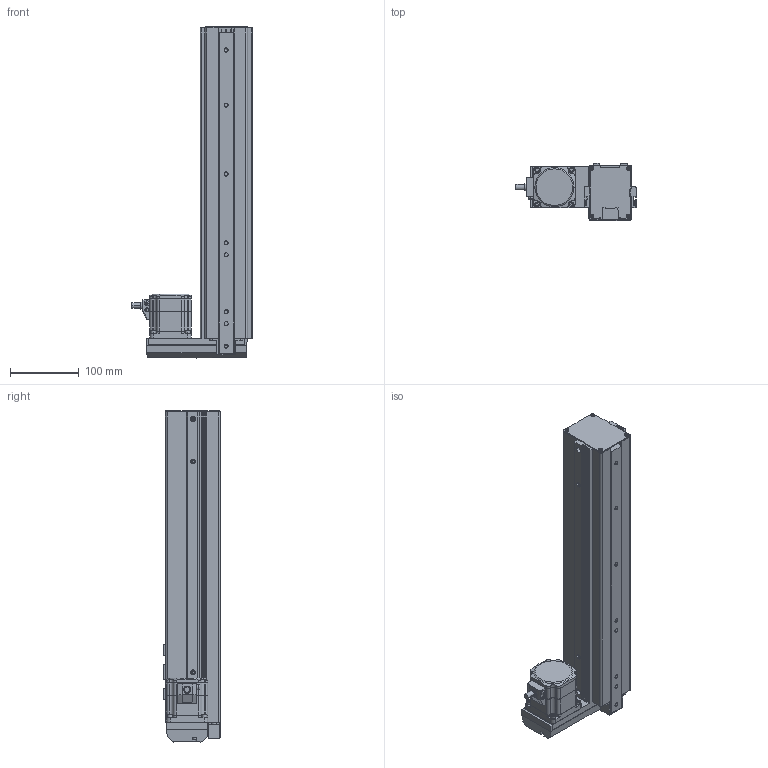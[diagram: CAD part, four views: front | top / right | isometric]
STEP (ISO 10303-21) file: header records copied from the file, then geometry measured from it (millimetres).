
FILE_DESCRIPTION (( 'STEP AP203' ), '1' );
FILE_NAME ('EASM6RYD030ARAK.step', '2013-10-10T19:30:02', ( 'om' ), ( 'Hewlett-Packard Company' ), 'SwSTEP 2.0', 'SolidWorks 2011', '' );
FILE_SCHEMA (( 'CONFIG_CONTROL_DESIGN' ));
Length unit declared in the file: millimetre
Products named in the file (4): EASM6RYD030ARAK_Motor; EASM6RYD030ARAK; EASM6RYD030ARAK_Table; EASM6RYD030ARAK_BASE
Assembly tree (3 placements, depth 2):
  EASM6RYD030ARAK
    EASM6RYD030ARAK_Table
    EASM6RYD030ARAK_BASE
    EASM6RYD030ARAK_Motor
Bounding box: 174.7 x 83 x 482.13 mm (x, y, z)
Volume: 1465362.3 mm3; surface area: 407065.4 mm2
Topology: 3 solids, 15 shells, 1179 faces, 3131 edges, 2043 vertices
Faces by surface type: plane 715, cylinder 402, cone 34, torus 24, bspline 4
Entity records: 37423 total; most frequent: CARTESIAN_POINT 6926, DIRECTION 6292, ORIENTED_EDGE 6242, EDGE_CURVE 3121, LINE 2162, VECTOR 2162, AXIS2_PLACEMENT_3D 2065, VERTEX_POINT 2043
